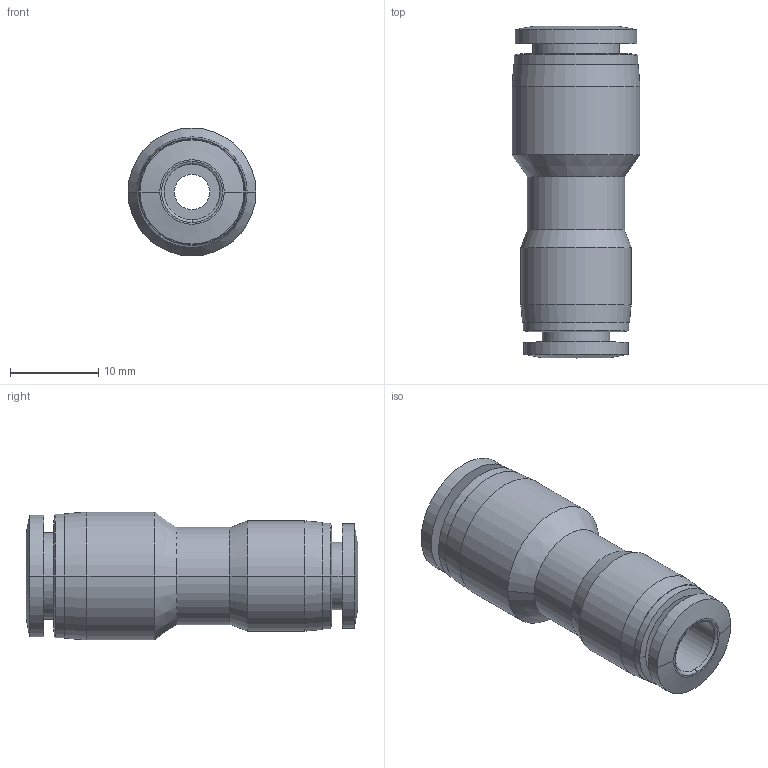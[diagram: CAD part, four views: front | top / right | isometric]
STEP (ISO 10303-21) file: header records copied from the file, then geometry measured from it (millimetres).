
FILE_DESCRIPTION (( 'STEP AP203' ), '1' );
FILE_NAME ('FRH08-06.STEP', '2020-05-12T15:01:01', ( '' ), ( '' ), 'SwSTEP 2.0', 'SolidWorks 2019', '' );
FILE_SCHEMA (( 'CONFIG_CONTROL_DESIGN' ));
Length unit declared in the file: millimetre
Products named in the file (1): FRH08-06
Bounding box: 14.5 x 37.6 x 14.5 mm (x, y, z)
Volume: 3189.6 mm3; surface area: 2828.2 mm2
Topology: 1 solids, 1 shells, 54 faces, 112 edges, 68 vertices
Faces by surface type: cylinder 24, cone 16, plane 10, torus 4
Entity records: 1529 total; most frequent: DIRECTION 294, CARTESIAN_POINT 235, ORIENTED_EDGE 224, AXIS2_PLACEMENT_3D 127, EDGE_CURVE 112, CIRCLE 72, VERTEX_POINT 68, EDGE_LOOP 64
